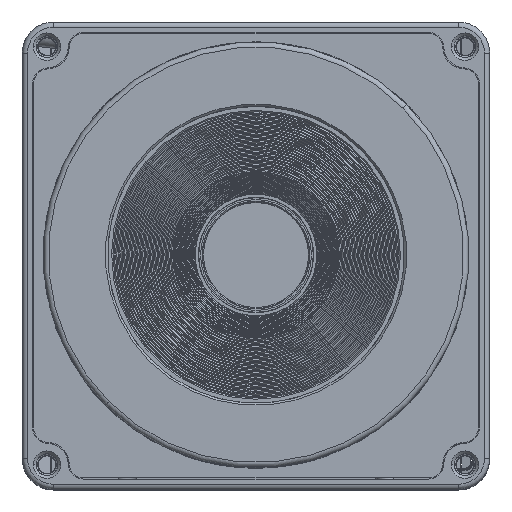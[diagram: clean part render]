
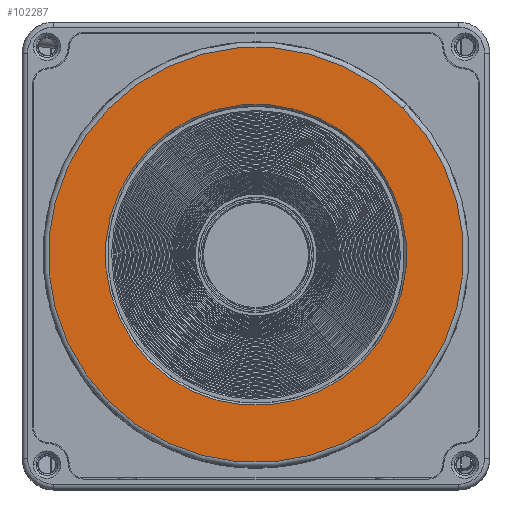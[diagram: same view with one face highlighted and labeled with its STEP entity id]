
A CAD part, top view. The second image highlights one B-rep face of the part: STEP entity #102287.
In plain terms, the highlighted planar face has unit normal (0, 0, 1).
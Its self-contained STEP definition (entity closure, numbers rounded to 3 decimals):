
#4456 = ORIENTED_EDGE ( 'NONE', *, *, #96363, .F. ) ;
#6367 = AXIS2_PLACEMENT_3D ( 'NONE', #126303, #126772, #63759 ) ;
#10635 = AXIS2_PLACEMENT_3D ( 'NONE', #41160, #113422, #123441 ) ;
#16794 = CARTESIAN_POINT ( 'NONE',  ( 28.284, 28.284, 104.8 ) ) ;
#19278 = VERTEX_POINT ( 'NONE', #68862 ) ;
#22513 = CIRCLE ( 'NONE', #90849, 29. ) ;
#22591 = EDGE_CURVE ( 'NONE', #25841, #19278, #68702, .T. ) ;
#22820 = ORIENTED_EDGE ( 'NONE', *, *, #39958, .F. ) ;
#25841 = VERTEX_POINT ( 'NONE', #16794 ) ;
#28163 = EDGE_LOOP ( 'NONE', ( #22820, #4456 ) ) ;
#29596 = AXIS2_PLACEMENT_3D ( 'NONE', #76156, #75264, #116005 ) ;
#34353 = FACE_OUTER_BOUND ( 'NONE', #35959, .T. ) ;
#35032 = VERTEX_POINT ( 'NONE', #91611 ) ;
#35959 = EDGE_LOOP ( 'NONE', ( #40024, #41908 ) ) ;
#39034 = DIRECTION ( 'NONE',  ( -0.707, -0.707, 0. ) ) ;
#39958 = EDGE_CURVE ( 'NONE', #35032, #88559, #121379, .T. ) ;
#40024 = ORIENTED_EDGE ( 'NONE', *, *, #129923, .T. ) ;
#41160 = CARTESIAN_POINT ( 'NONE',  ( -28.991, 28.991, 104.8 ) ) ;
#41908 = ORIENTED_EDGE ( 'NONE', *, *, #22591, .T. ) ;
#42939 = CIRCLE ( 'NONE', #29596, 40. ) ;
#49096 = CARTESIAN_POINT ( 'NONE',  ( 0., 0., 104.8 ) ) ;
#50361 = PLANE ( 'NONE',  #10635 ) ;
#61815 = AXIS2_PLACEMENT_3D ( 'NONE', #49096, #80593, #39034 ) ;
#63759 = DIRECTION ( 'NONE',  ( 0.707, 0.707, 0. ) ) ;
#64743 = CARTESIAN_POINT ( 'NONE',  ( -20.506, -20.506, 104.8 ) ) ;
#68702 = CIRCLE ( 'NONE', #61815, 40. ) ;
#68862 = CARTESIAN_POINT ( 'NONE',  ( -28.284, -28.284, 104.8 ) ) ;
#75264 = DIRECTION ( 'NONE',  ( 0., 0., 1. ) ) ;
#76156 = CARTESIAN_POINT ( 'NONE',  ( 0., 0., 104.8 ) ) ;
#80593 = DIRECTION ( 'NONE',  ( 0., 0., 1. ) ) ;
#88559 = VERTEX_POINT ( 'NONE', #64743 ) ;
#90849 = AXIS2_PLACEMENT_3D ( 'NONE', #121995, #121535, #133473 ) ;
#91611 = CARTESIAN_POINT ( 'NONE',  ( 20.506, 20.506, 104.8 ) ) ;
#96363 = EDGE_CURVE ( 'NONE', #88559, #35032, #22513, .T. ) ;
#96439 = FACE_BOUND ( 'NONE', #28163, .T. ) ;
#102287 = ADVANCED_FACE ( 'NONE', ( #34353, #96439 ), #50361, .F. ) ;
#113422 = DIRECTION ( 'NONE',  ( 0., 0., -1. ) ) ;
#116005 = DIRECTION ( 'NONE',  ( -0.707, -0.707, 0. ) ) ;
#121379 = CIRCLE ( 'NONE', #6367, 29. ) ;
#121535 = DIRECTION ( 'NONE',  ( 0., 0., 1. ) ) ;
#121995 = CARTESIAN_POINT ( 'NONE',  ( 0., 0., 104.8 ) ) ;
#123441 = DIRECTION ( 'NONE',  ( -0.707, -0.707, 0. ) ) ;
#126303 = CARTESIAN_POINT ( 'NONE',  ( 0., 0., 104.8 ) ) ;
#126772 = DIRECTION ( 'NONE',  ( 0., 0., 1. ) ) ;
#129923 = EDGE_CURVE ( 'NONE', #19278, #25841, #42939, .T. ) ;
#133473 = DIRECTION ( 'NONE',  ( 0.707, 0.707, 0. ) ) ;
